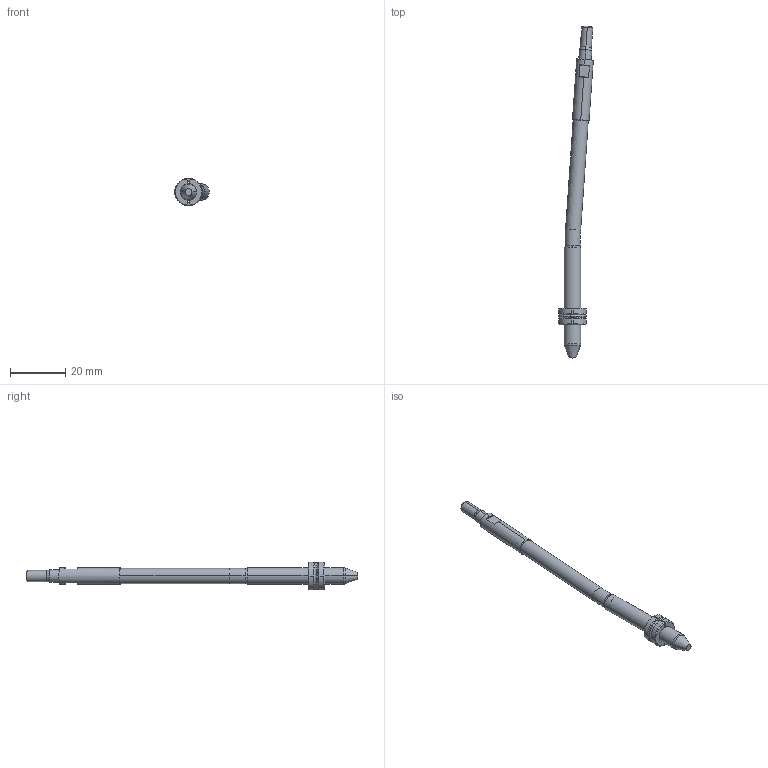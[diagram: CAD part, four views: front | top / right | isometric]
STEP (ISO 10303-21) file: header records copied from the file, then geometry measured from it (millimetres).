
FILE_DESCRIPTION (( 'STEP AP214' ), '1' );
FILE_NAME ('WP060030-EJE 4°.STEP', '2021-03-19T15:10:41', ( '' ), ( '' ), 'SwSTEP 2.0', 'SolidWorks 2019', '' );
FILE_SCHEMA (( 'AUTOMOTIVE_DESIGN' ));
Length unit declared in the file: millimetre
Products named in the file (6): WEB-008-JUNTA-JT7X1X9; WEB-002-9WP060030-2; WEB-007-9WP060030-F_WP060030-F-ON 4ø; WEB-001-9WP060030-1; WP060030-EJE 4°; WEB-006-9WP060030-6
Assembly tree (5 placements, depth 2):
  WP060030-EJE 4°
    WEB-001-9WP060030-1
    WEB-007-9WP060030-F_WP060030-F-ON 4ø
    WEB-002-9WP060030-2
    WEB-006-9WP060030-6
    WEB-008-JUNTA-JT7X1X9
Bounding box: 12.48 x 119.74 x 9.99 mm (x, y, z)
Volume: 3174.1 mm3; surface area: 2920.7 mm2
Topology: 6 solids, 6 shells, 112 faces, 262 edges, 164 vertices
Faces by surface type: cylinder 36, cone 28, plane 28, torus 20
Entity records: 3723 total; most frequent: CARTESIAN_POINT 714, DIRECTION 598, ORIENTED_EDGE 524, EDGE_CURVE 262, AXIS2_PLACEMENT_3D 256, VERTEX_POINT 164, CIRCLE 136, EDGE_LOOP 116
